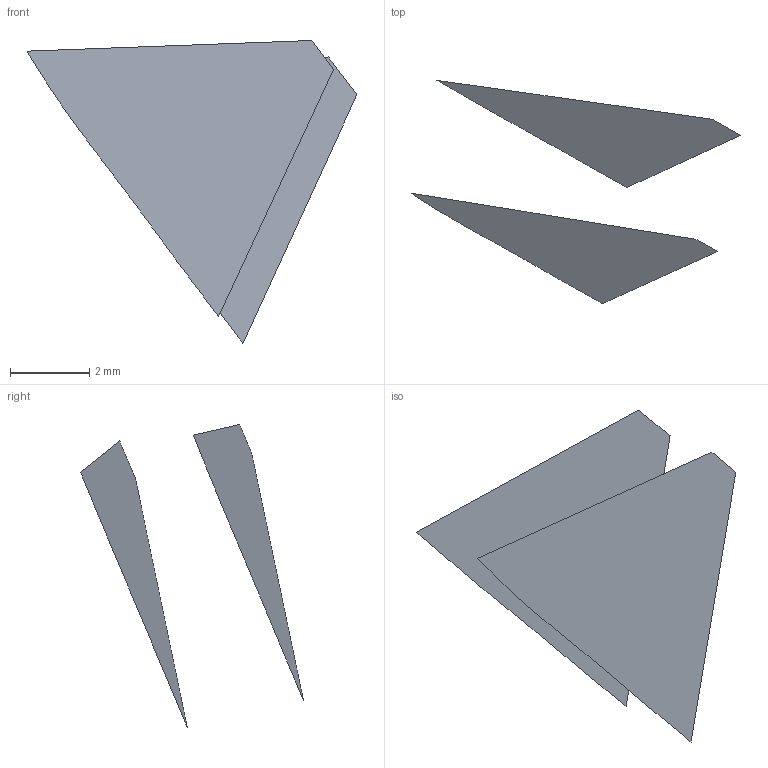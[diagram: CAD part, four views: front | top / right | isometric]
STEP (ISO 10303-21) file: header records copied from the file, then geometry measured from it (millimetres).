
FILE_DESCRIPTION(('FreeCAD Model'),'2;1');
FILE_NAME('Open CASCADE Shape Model','2022-05-22T07:50:31',('FreeCAD'),( 'FreeCAD'),'Open CASCADE STEP processor 7.5','FreeCAD','Unknown');
FILE_SCHEMA(('AUTOMOTIVE_DESIGN { 1 0 10303 214 1 1 1 1 }'));
Length unit declared in the file: millimetre
Products named in the file (3): Open CASCADE STEP translator 7.5 1; Open CASCADE STEP translator 7.5 1.1; Open CASCADE STEP translator 7.5 1.2
Assembly tree (2 placements, depth 2):
  Open CASCADE STEP translator 7.5 1
    Open CASCADE STEP translator 7.5 1.1
    Open CASCADE STEP translator 7.5 1.2
Bounding box: 8.3 x 5.61 x 7.63 mm (x, y, z)
Surface area: 58.7 mm2 (no closed solid volume)
Topology: 0 solids, 2 shells, 2 faces, 41 edges, 41 vertices
Faces by surface type: bspline 2
Entity records: 605 total; most frequent: CARTESIAN_POINT 216, B_SPLINE_CURVE_WITH_KNOTS 82, ORIENTED_EDGE 41, EDGE_CURVE 41, VERTEX_POINT 41, SURFACE_CURVE 41, PCURVE 41, DEFINITIONAL_REPRESENTATION 41
